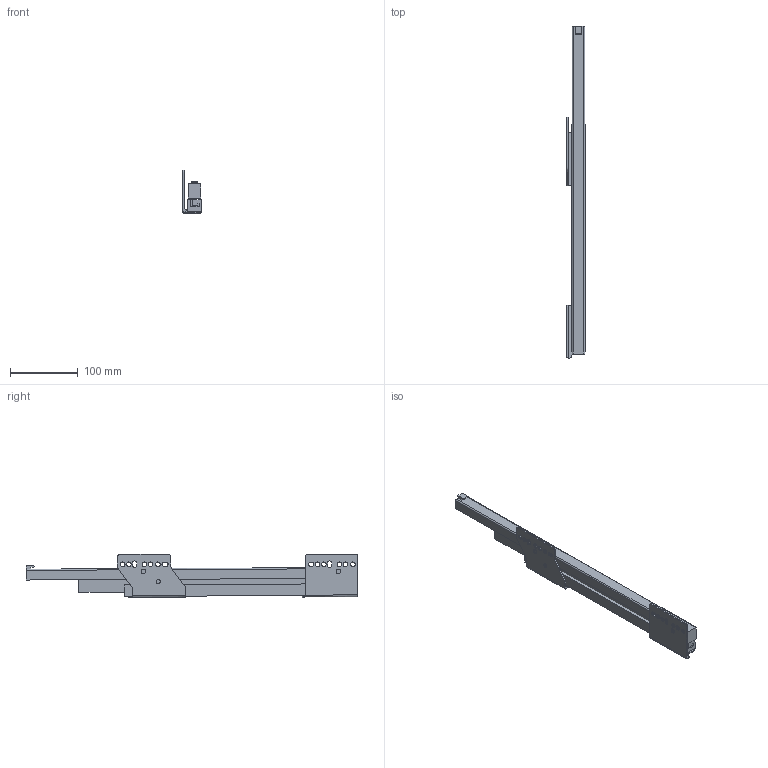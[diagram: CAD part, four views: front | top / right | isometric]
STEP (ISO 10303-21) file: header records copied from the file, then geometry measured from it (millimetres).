
FILE_DESCRIPTION (( 'STEP AP214' ), '1' );
FILE_NAME ('_IMOS_NOVA-Pro_KS_P904_LI_NL500_EB29.step', '2010-07-06T07:17:42', ( 'grass' ), ( '' ), 'SwSTEP 2.0', 'SolidWorks 2009', '' );
FILE_SCHEMA (( 'AUTOMOTIVE_DESIGN' ));
Length unit declared in the file: millimetre
Products named in the file (1): _IMOS_NOVA-Pro_KS_P904_LI_NL500_EB29
Bounding box: 26.75 x 490.35 x 64.46 mm (x, y, z)
Volume: 342888.9 mm3; surface area: 141213.8 mm2
Topology: 6 solids, 6 shells, 144 faces, 392 edges, 260 vertices
Faces by surface type: plane 89, cylinder 55
Entity records: 4691 total; most frequent: CARTESIAN_POINT 848, ORIENTED_EDGE 784, DIRECTION 765, EDGE_CURVE 392, VECTOR 275, LINE 275, VERTEX_POINT 260, AXIS2_PLACEMENT_3D 245
